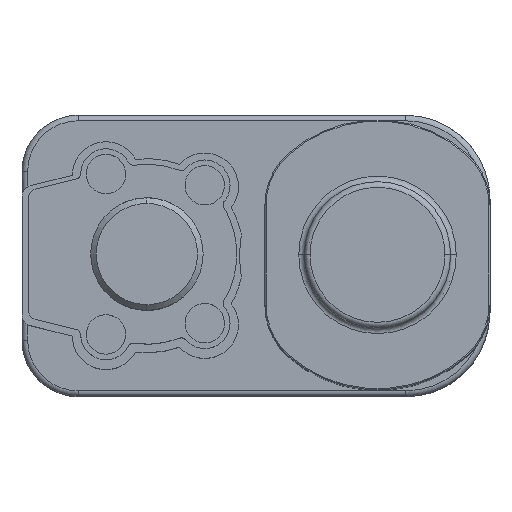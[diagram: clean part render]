
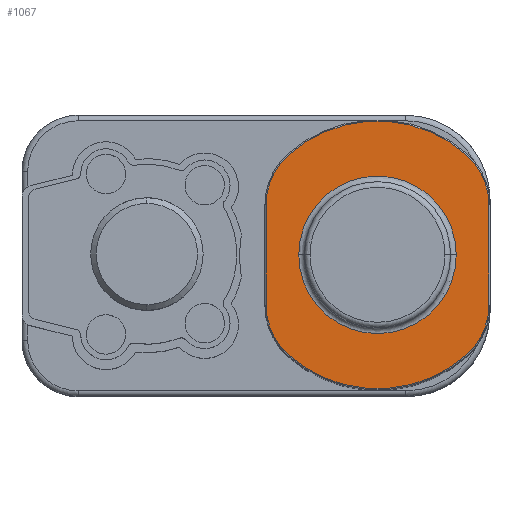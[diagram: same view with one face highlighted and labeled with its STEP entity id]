
A CAD part, top view. The second image highlights one B-rep face of the part: STEP entity #1067.
In plain terms, the highlighted planar face has unit normal (0, 0, 1) as drawn and (0, 0, -1) by its records, which use the part's own axes.
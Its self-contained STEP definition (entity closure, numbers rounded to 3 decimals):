
#692=CARTESIAN_POINT('',(-8.,-8.944,0.));
#693=DIRECTION('',(0.,0.,1.));
#694=DIRECTION('',(-1.,0.,0.));
#695=AXIS2_PLACEMENT_3D('',#692,#693,#694);
#697=CARTESIAN_POINT('',(0.,0.,0.));
#698=DIRECTION('',(0.,0.,1.));
#699=DIRECTION('',(-0.667,-0.745,0.));
#700=AXIS2_PLACEMENT_3D('',#697,#698,#699);
#702=CARTESIAN_POINT('',(8.,-8.944,0.));
#703=DIRECTION('',(0.,0.,1.));
#704=DIRECTION('',(0.667,-0.745,0.));
#705=AXIS2_PLACEMENT_3D('',#702,#703,#704);
#707=CARTESIAN_POINT('',(8.,8.944,0.));
#708=DIRECTION('',(0.,0.,1.));
#709=DIRECTION('',(1.,0.,0.));
#710=AXIS2_PLACEMENT_3D('',#707,#708,#709);
#712=CARTESIAN_POINT('',(0.,0.,0.));
#713=DIRECTION('',(0.,0.,1.));
#714=DIRECTION('',(0.667,0.745,0.));
#715=AXIS2_PLACEMENT_3D('',#712,#713,#714);
#717=CARTESIAN_POINT('',(-8.,8.944,0.));
#718=DIRECTION('',(0.,0.,1.));
#719=DIRECTION('',(-0.667,0.745,0.));
#720=AXIS2_PLACEMENT_3D('',#717,#718,#719);
#722=CARTESIAN_POINT('',(0.,0.,0.));
#723=DIRECTION('',(0.,0.,-1.));
#724=DIRECTION('',(-1.,0.,0.));
#725=AXIS2_PLACEMENT_3D('',#722,#723,#724);
#727=CARTESIAN_POINT('',(0.,0.,0.));
#728=DIRECTION('',(0.,0.,-1.));
#729=DIRECTION('',(1.,0.,0.));
#730=AXIS2_PLACEMENT_3D('',#727,#728,#729);
#732=DIRECTION('',(0.,1.,0.));
#733=VECTOR('',#732,17.889);
#734=CARTESIAN_POINT('',(-19.8,-8.944,0.));
#735=LINE('',#734,#733);
#775=DIRECTION('',(0.,-1.,0.));
#776=VECTOR('',#775,17.889);
#777=CARTESIAN_POINT('',(19.8,8.944,0.));
#778=LINE('',#777,#776);
#966=CARTESIAN_POINT('',(-19.8,-8.944,0.));
#967=CARTESIAN_POINT('',(-19.8,8.944,0.));
#968=VERTEX_POINT('',#966);
#969=VERTEX_POINT('',#967);
#970=CARTESIAN_POINT('',(-15.867,-17.739,0.));
#971=VERTEX_POINT('',#970);
#972=CARTESIAN_POINT('',(15.867,-17.739,0.));
#973=VERTEX_POINT('',#972);
#974=CARTESIAN_POINT('',(19.8,-8.944,0.));
#975=VERTEX_POINT('',#974);
#976=CARTESIAN_POINT('',(19.8,8.944,0.));
#977=VERTEX_POINT('',#976);
#978=CARTESIAN_POINT('',(15.867,17.739,0.));
#979=VERTEX_POINT('',#978);
#980=CARTESIAN_POINT('',(-15.867,17.739,0.));
#981=VERTEX_POINT('',#980);
#1014=CARTESIAN_POINT('',(-14.,0.,0.));
#1016=VERTEX_POINT('',#1014);
#1022=CARTESIAN_POINT('',(14.,0.,0.));
#1023=VERTEX_POINT('',#1022);
#1038=CARTESIAN_POINT('',(0.,0.,0.));
#1039=DIRECTION('',(0.,0.,1.));
#1040=DIRECTION('',(1.,0.,0.));
#1041=AXIS2_PLACEMENT_3D('',#1038,#1039,#1040);
#1042=PLANE('',#1041);
#1044=ORIENTED_EDGE('',*,*,#1043,.F.);
#1046=ORIENTED_EDGE('',*,*,#1045,.T.);
#1048=ORIENTED_EDGE('',*,*,#1047,.T.);
#1050=ORIENTED_EDGE('',*,*,#1049,.T.);
#1052=ORIENTED_EDGE('',*,*,#1051,.F.);
#1054=ORIENTED_EDGE('',*,*,#1053,.T.);
#1056=ORIENTED_EDGE('',*,*,#1055,.T.);
#1058=ORIENTED_EDGE('',*,*,#1057,.T.);
#1059=EDGE_LOOP('',(#1044,#1046,#1048,#1050,#1052,#1054,#1056,#1058));
#1060=FACE_OUTER_BOUND('',#1059,.F.);
#1062=ORIENTED_EDGE('',*,*,#1061,.T.);
#1064=ORIENTED_EDGE('',*,*,#1063,.T.);
#1065=EDGE_LOOP('',(#1062,#1064));
#1066=FACE_BOUND('',#1065,.F.);
#1067=ADVANCED_FACE('',(#1060,#1066),#1042,.F.);
#696=CIRCLE('',#695,11.8);
#701=CIRCLE('',#700,23.8);
#706=CIRCLE('',#705,11.8);
#711=CIRCLE('',#710,11.8);
#716=CIRCLE('',#715,23.8);
#721=CIRCLE('',#720,11.8);
#726=CIRCLE('',#725,14.);
#731=CIRCLE('',#730,14.);
#1043=EDGE_CURVE('',#968,#969,#735,.T.);
#1045=EDGE_CURVE('',#968,#971,#696,.T.);
#1047=EDGE_CURVE('',#971,#973,#701,.T.);
#1049=EDGE_CURVE('',#973,#975,#706,.T.);
#1051=EDGE_CURVE('',#977,#975,#778,.T.);
#1053=EDGE_CURVE('',#977,#979,#711,.T.);
#1055=EDGE_CURVE('',#979,#981,#716,.T.);
#1057=EDGE_CURVE('',#981,#969,#721,.T.);
#1061=EDGE_CURVE('',#1016,#1023,#726,.T.);
#1063=EDGE_CURVE('',#1023,#1016,#731,.T.);
